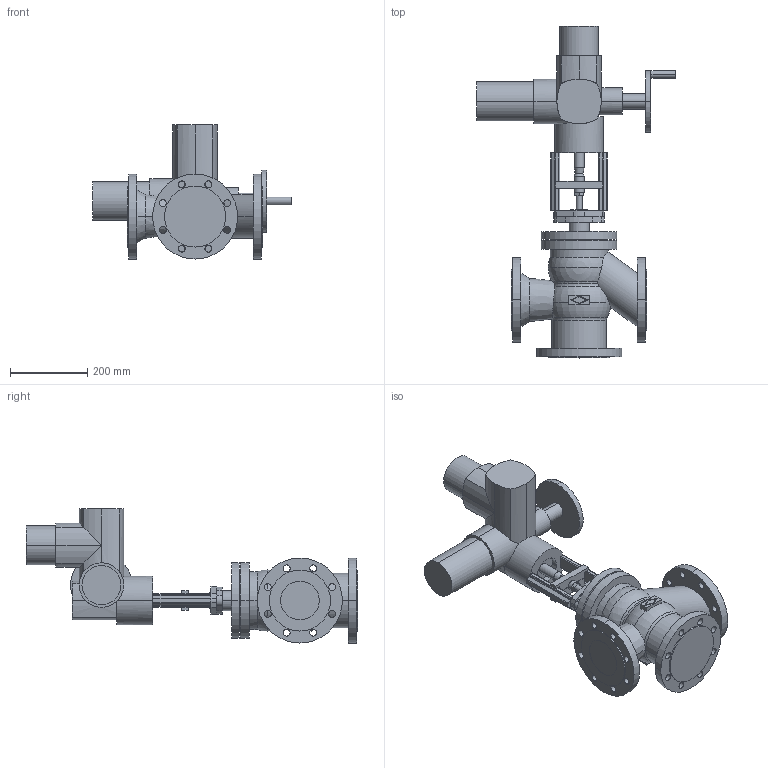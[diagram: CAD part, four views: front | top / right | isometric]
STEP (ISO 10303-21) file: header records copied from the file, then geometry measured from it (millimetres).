
FILE_DESCRIPTION(('OneSpaceDesigner STEP Export'),'2;1');
FILE_NAME('c000003156.stp','2007-01-24T10:27:47',(''),(''),'OneSpace Designer STEP processor for AP214 (Solid Model)','OneSpace Designer 14.00B 27-May-2006 (C) CoCreate Software GmbH','');
FILE_SCHEMA(('AUTOMOTIVE_DESIGN { 1 0 10303 214 1 1 1 1 }'));
Length unit declared in the file: millimetre
Products named in the file (2): 1; 2
Bounding box: 514 x 858.5 x 347 mm (x, y, z)
Volume: 18810637.2 mm3; surface area: 990592.2 mm2
Topology: 2 solids, 2 shells, 305 faces, 796 edges, 508 vertices
Faces by surface type: cylinder 160, plane 123, torus 10, cone 8, sphere 4
Entity records: 8855 total; most frequent: CARTESIAN_POINT 1943, ORIENTED_EDGE 1584, DIRECTION 1246, EDGE_CURVE 792, VERTEX_POINT 508, AXIS2_PLACEMENT_3D 429, VECTOR 388, LINE 388
